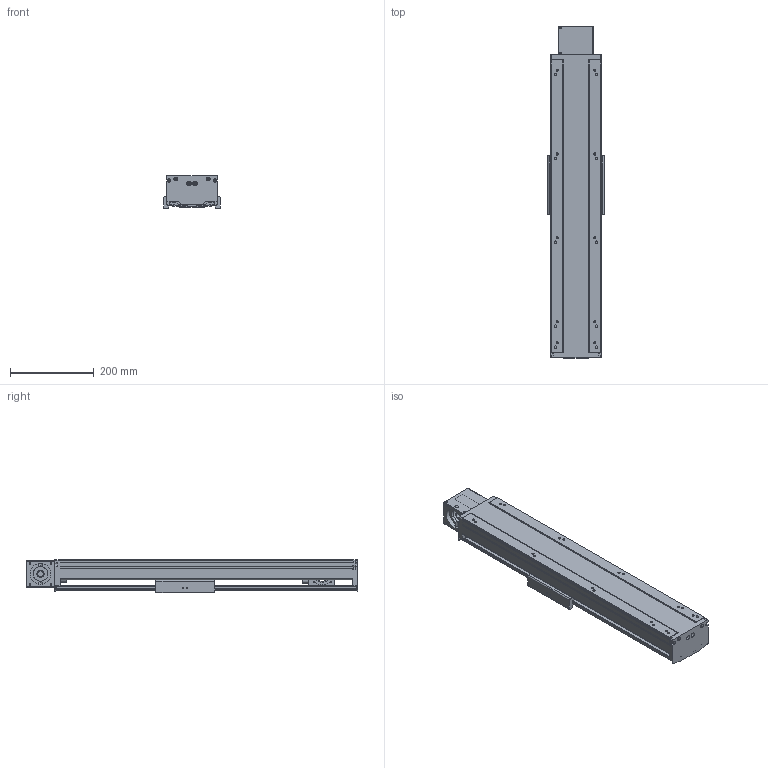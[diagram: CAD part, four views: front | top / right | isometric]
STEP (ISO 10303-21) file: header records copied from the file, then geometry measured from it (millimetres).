
FILE_DESCRIPTION(/* description */ (''),/* implementation_level */ '2;1');
FILE_NAME(/* name */ 'TKB120-FL-400_asm1_stp.stp',/* time_stamp */ '2016-06-28T15:16:55+08:00',/* author */ (''),/* organization */ (''),/* preprocessor_version */ 'ST-DEVELOPER v15',/* originating_system */ 'SIEMENS PLM Software NX 8.5',/* authorisation */ '');
FILE_SCHEMA (('AUTOMOTIVE_DESIGN { 1 0 10303 214 3 1 1 1 }'));
Length unit declared in the file: millimetre
Products named in the file (3): 200-2; 200-1; TKB120-FL-400_asm1_stp
Assembly tree (2 placements, depth 2):
  TKB120-FL-400_asm1_stp
    200-1
    200-2
Bounding box: 134 x 791 x 80 mm (x, y, z)
Volume: 2317593.2 mm3; surface area: 879957.8 mm2
Topology: 2 solids, 3 shells, 752 faces, 2129 edges, 1392 vertices
Faces by surface type: cylinder 363, plane 347, cone 42
Full cylindrical faces by diameter (mm): 2.5 x4, 3.3 x20, 4.2 x4, 4.5 x24, 5 x20, 5.5 x10, 6.6 x6, 6.8 x4, 7.5 x4, 8 x12, 9 x6, 9.75 x20, 10.5 x4, 11 x2, 12 x4, 14 x2, 17 x2, 35 x2, 40 x3, 50 x2, 52 x1
Entity records: 24158 total; most frequent: CARTESIAN_POINT 5031, DIRECTION 4045, ORIENTED_EDGE 3682, EDGE_CURVE 1841, AXIS2_PLACEMENT_3D 1528, VERTEX_POINT 1344, EDGE_LOOP 1099, LINE 989
